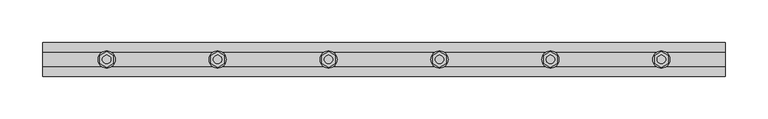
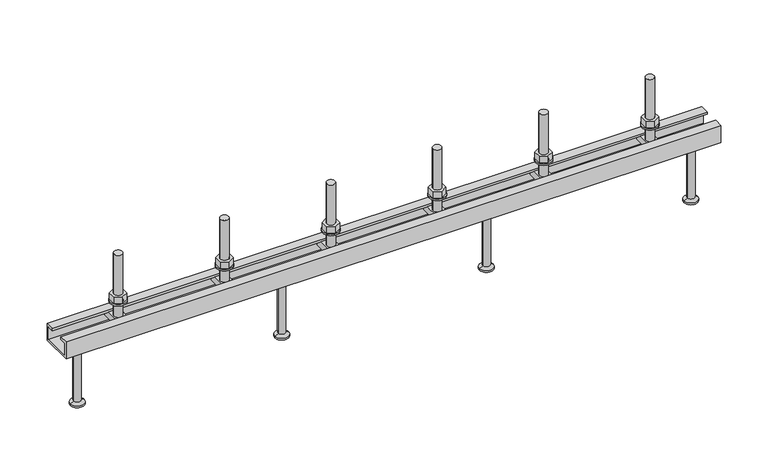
"""IFC4 building model written with IfcOpenShell, lengths in millimetres: fastener geometry, JTA-W JORDAHL® AnchorChannels : JTA-W L=800 mm."""

from ifc_helpers import new_model, si_unit, point, frame, frame_2d, origin, place, context, project, spatial, polyline, circle_curve, trimmed, segment, composite_curve, outline, extrude, source, transform, mapped, element, save
from ifc_brep_helpers import plane_surface, cylinder_surface, revolved_surface, advanced_brep


def fastener_78868887(model_context):
    return source(origin(), model_context, "Body", "SolidModel", [
        extrude(outline(polyline([(595.0, 9.2376043), (603.0, 4.6188022), (603.0, -4.6188022), (595.0, -9.2376043), (587.0, -4.6188022), (587.0, 4.6188022), (595.0, 9.2376043)]), holes=[composite_curve([segment(trimmed(circle_curve(frame_2d((595.0, 0.0)), 5.0), [point((590.0, 0.0))], [point((600.0, 0.0))], True, "CARTESIAN"), True, "CONTINUOUS"), segment(trimmed(circle_curve(frame_2d((595.0, 0.0)), 5.0), [point((600.0, 0.0))], [point((590.0, 0.0))], True, "CARTESIAN"), True, "CONTINUOUS")], self_intersect=False)]), frame((0.0, 0.0, 17.0), z_axis=(0.0, 0.0, 1.0), x_axis=(1.0, 0.0, 0.0)), (0.0, 0.0, 1.0), 8.4),
        extrude(outline(composite_curve([segment(trimmed(circle_curve(frame_2d((595.0, 0.0)), 10.0), [point((585.0, 0.0))], [point((605.0, 0.0))], False, "CARTESIAN"), True, "CONTINUOUS"), segment(trimmed(circle_curve(frame_2d((595.0, 0.0)), 10.0), [point((605.0, 0.0))], [point((585.0, 0.0))], False, "CARTESIAN"), True, "CONTINUOUS")], self_intersect=False), holes=[composite_curve([segment(trimmed(circle_curve(frame_2d((595.0, 0.0)), 5.25), [point((589.75, 0.0))], [point((600.25, 0.0))], True, "CARTESIAN"), True, "CONTINUOUS"), segment(trimmed(circle_curve(frame_2d((595.0, 0.0)), 5.25), [point((600.25, 0.0))], [point((589.75, 0.0))], True, "CARTESIAN"), True, "CONTINUOUS")], self_intersect=False)]), frame((0.0, 0.0, 15.0), z_axis=(0.0, 0.0, 1.0), x_axis=(1.0, 0.0, 0.0)), (0.0, 0.0, 1.0), 2.0),
        extrude(outline(polyline([(465.0, 9.2376043), (473.0, 4.6188022), (473.0, -4.6188022), (465.0, -9.2376043), (457.0, -4.6188022), (457.0, 4.6188022), (465.0, 9.2376043)]), holes=[composite_curve([segment(trimmed(circle_curve(frame_2d((465.0, 0.0)), 5.0), [point((460.0, 0.0))], [point((470.0, 0.0))], True, "CARTESIAN"), True, "CONTINUOUS"), segment(trimmed(circle_curve(frame_2d((465.0, 0.0)), 5.0), [point((470.0, 0.0))], [point((460.0, 0.0))], True, "CARTESIAN"), True, "CONTINUOUS")], self_intersect=False)]), frame((0.0, 0.0, 17.0), z_axis=(0.0, 0.0, 1.0), x_axis=(1.0, 0.0, 0.0)), (0.0, 0.0, 1.0), 8.4),
        extrude(outline(composite_curve([segment(trimmed(circle_curve(frame_2d((465.0, 0.0)), 10.0), [point((455.0, 0.0))], [point((475.0, 0.0))], False, "CARTESIAN"), True, "CONTINUOUS"), segment(trimmed(circle_curve(frame_2d((465.0, 0.0)), 10.0), [point((475.0, 0.0))], [point((455.0, 0.0))], False, "CARTESIAN"), True, "CONTINUOUS")], self_intersect=False), holes=[composite_curve([segment(trimmed(circle_curve(frame_2d((465.0, 0.0)), 5.25), [point((459.75, 0.0))], [point((470.25, 0.0))], True, "CARTESIAN"), True, "CONTINUOUS"), segment(trimmed(circle_curve(frame_2d((465.0, 0.0)), 5.25), [point((470.25, 0.0))], [point((459.75, 0.0))], True, "CARTESIAN"), True, "CONTINUOUS")], self_intersect=False)]), frame((0.0, 0.0, 15.0), z_axis=(0.0, 0.0, 1.0), x_axis=(1.0, 0.0, 0.0)), (0.0, 0.0, 1.0), 2.0),
        extrude(outline(polyline([(335.0, 9.2376043), (343.0, 4.6188022), (343.0, -4.6188022), (335.0, -9.2376043), (327.0, -4.6188022), (327.0, 4.6188022), (335.0, 9.2376043)]), holes=[composite_curve([segment(trimmed(circle_curve(frame_2d((335.0, 0.0)), 5.0), [point((330.0, 0.0))], [point((340.0, 0.0))], True, "CARTESIAN"), True, "CONTINUOUS"), segment(trimmed(circle_curve(frame_2d((335.0, 0.0)), 5.0), [point((340.0, 0.0))], [point((330.0, 0.0))], True, "CARTESIAN"), True, "CONTINUOUS")], self_intersect=False)]), frame((0.0, 0.0, 17.0), z_axis=(0.0, 0.0, 1.0), x_axis=(1.0, 0.0, 0.0)), (0.0, 0.0, 1.0), 8.4),
        extrude(outline(composite_curve([segment(trimmed(circle_curve(frame_2d((335.0, 0.0)), 10.0), [point((325.0, 0.0))], [point((345.0, 0.0))], False, "CARTESIAN"), True, "CONTINUOUS"), segment(trimmed(circle_curve(frame_2d((335.0, 0.0)), 10.0), [point((345.0, 0.0))], [point((325.0, 0.0))], False, "CARTESIAN"), True, "CONTINUOUS")], self_intersect=False), holes=[composite_curve([segment(trimmed(circle_curve(frame_2d((335.0, 0.0)), 5.25), [point((329.75, 0.0))], [point((340.25, 0.0))], True, "CARTESIAN"), True, "CONTINUOUS"), segment(trimmed(circle_curve(frame_2d((335.0, 0.0)), 5.25), [point((340.25, 0.0))], [point((329.75, 0.0))], True, "CARTESIAN"), True, "CONTINUOUS")], self_intersect=False)]), frame((0.0, 0.0, 15.0), z_axis=(0.0, 0.0, 1.0), x_axis=(1.0, 0.0, 0.0)), (0.0, 0.0, 1.0), 2.0),
        extrude(outline(polyline([(205.0, 9.2376043), (213.0, 4.6188022), (213.0, -4.6188022), (205.0, -9.2376043), (197.0, -4.6188022), (197.0, 4.6188022), (205.0, 9.2376043)]), holes=[composite_curve([segment(trimmed(circle_curve(frame_2d((205.0, 0.0)), 5.0), [point((200.0, 0.0))], [point((210.0, 0.0))], True, "CARTESIAN"), True, "CONTINUOUS"), segment(trimmed(circle_curve(frame_2d((205.0, 0.0)), 5.0), [point((210.0, 0.0))], [point((200.0, 0.0))], True, "CARTESIAN"), True, "CONTINUOUS")], self_intersect=False)]), frame((0.0, 0.0, 17.0), z_axis=(0.0, 0.0, 1.0), x_axis=(1.0, 0.0, 0.0)), (0.0, 0.0, 1.0), 8.4),
        extrude(outline(composite_curve([segment(trimmed(circle_curve(frame_2d((205.0, 0.0)), 10.0), [point((195.0, 0.0))], [point((215.0, 0.0))], False, "CARTESIAN"), True, "CONTINUOUS"), segment(trimmed(circle_curve(frame_2d((205.0, 0.0)), 10.0), [point((215.0, 0.0))], [point((195.0, 0.0))], False, "CARTESIAN"), True, "CONTINUOUS")], self_intersect=False), holes=[composite_curve([segment(trimmed(circle_curve(frame_2d((205.0, 0.0)), 5.25), [point((199.75, 0.0))], [point((210.25, 0.0))], True, "CARTESIAN"), True, "CONTINUOUS"), segment(trimmed(circle_curve(frame_2d((205.0, 0.0)), 5.25), [point((210.25, 0.0))], [point((199.75, 0.0))], True, "CARTESIAN"), True, "CONTINUOUS")], self_intersect=False)]), frame((0.0, 0.0, 15.0), z_axis=(0.0, 0.0, 1.0), x_axis=(1.0, 0.0, 0.0)), (0.0, 0.0, 1.0), 2.0),
        advanced_brep(
        [(602.0, 16.25, -3.0), (602.0, -16.25, -3.0), (602.0, -16.25, -11.0), (602.0, 16.25, -11.0), (588.0, 16.25, -3.0), (588.0, 16.25, -11.0), (588.0, -16.25, -11.0), (588.0, -16.25, -3.0), (600.0, 0.0, -3.0), (590.0, 0.0, -3.0), (590.0, 0.0, 77.0), (600.0, 0.0, 77.0)],
        [
            (0, 1),
            (1, 2),
            (2, 3),
            (3, 0),
            (4, 5),
            (5, 6),
            (6, 7),
            (7, 4),
            (0, 4),
            (7, 1),
            (8, 9, circle_curve(frame((595.0, 0.0, -3.0), z_axis=(0.0, 0.0, -1.0), x_axis=(1.0, 0.0, 0.0)), 5.0)),
            (9, 8, circle_curve(frame((595.0, 0.0, -3.0), z_axis=(0.0, 0.0, -1.0), x_axis=(1.0, 0.0, 0.0)), 5.0)),
            (6, 2),
            (5, 3),
            (10, 11, circle_curve(frame((595.0, 0.0, 77.0), z_axis=(0.0, 0.0, 1.0), x_axis=(1.0, 0.0, 0.0)), 5.0)),
            (11, 10, circle_curve(frame((595.0, 0.0, 77.0), z_axis=(0.0, 0.0, 1.0), x_axis=(1.0, 0.0, 0.0)), 5.0)),
            (10, 9),
            (8, 11),
        ],
        [
            plane_surface(frame((602.0, -16.25, -3.0), z_axis=(1.0, 0.0, 0.0), x_axis=(0.0, -1.0, 0.0))),
            plane_surface(frame((588.0, -16.25, -3.0), z_axis=(-1.0, 0.0, 0.0), x_axis=(0.0, 1.0, 0.0))),
            plane_surface(frame((602.0, 16.25, -3.0), z_axis=(0.0, 0.0, 1.0), x_axis=(-1.0, 0.0, 0.0))),
            plane_surface(frame((602.0, -16.25, -3.0), z_axis=(0.0, -1.0, 0.0), x_axis=(-1.0, 0.0, 0.0))),
            plane_surface(frame((602.0, -16.25, -11.0), z_axis=(0.0, 0.0, -1.0), x_axis=(-1.0, 0.0, 0.0))),
            plane_surface(frame((602.0, 16.25, -11.0), z_axis=(0.0, 1.0, 0.0), x_axis=(-1.0, 0.0, 0.0))),
            plane_surface(frame((600.0, 0.0, 77.0), z_axis=(0.0, 0.0, 1.0), x_axis=(0.0, 1.0, 0.0))),
            cylinder_surface(frame((595.0, 0.0, -3.0), z_axis=(0.0, 0.0, 1.0), x_axis=(1.0, 0.0, 0.0)), 5.0),
        ],
        [
            (0, [[1, 2, 3, 4]]),
            (1, [[5, 6, 7, 8]]),
            (2, [[-1, 9, -8, 10], [11, 12]]),
            (3, [[-2, -10, -7, 13]]),
            (4, [[-3, -13, -6, 14]]),
            (5, [[-4, -14, -5, -9]]),
            (6, [[15, 16]]),
            (7, [[-15, 17, -11, 18]]),
            (7, [[-16, -18, -12, -17]]),
        ],
    ),
        advanced_brep(
        [(472.0, 16.25, -3.0), (472.0, -16.25, -3.0), (472.0, -16.25, -11.0), (472.0, 16.25, -11.0), (458.0, 16.25, -3.0), (458.0, 16.25, -11.0), (458.0, -16.25, -11.0), (458.0, -16.25, -3.0), (470.0, 0.0, -3.0), (460.0, 0.0, -3.0), (460.0, 0.0, 77.0), (470.0, 0.0, 77.0)],
        [
            (0, 1),
            (1, 2),
            (2, 3),
            (3, 0),
            (4, 5),
            (5, 6),
            (6, 7),
            (7, 4),
            (0, 4),
            (7, 1),
            (8, 9, circle_curve(frame((465.0, 0.0, -3.0), z_axis=(0.0, 0.0, -1.0), x_axis=(1.0, 0.0, 0.0)), 5.0)),
            (9, 8, circle_curve(frame((465.0, 0.0, -3.0), z_axis=(0.0, 0.0, -1.0), x_axis=(1.0, 0.0, 0.0)), 5.0)),
            (6, 2),
            (5, 3),
            (10, 11, circle_curve(frame((465.0, 0.0, 77.0), z_axis=(0.0, 0.0, 1.0), x_axis=(1.0, 0.0, 0.0)), 5.0)),
            (11, 10, circle_curve(frame((465.0, 0.0, 77.0), z_axis=(0.0, 0.0, 1.0), x_axis=(1.0, 0.0, 0.0)), 5.0)),
            (10, 9),
            (8, 11),
        ],
        [
            plane_surface(frame((472.0, -16.25, -3.0), z_axis=(1.0, 0.0, 0.0), x_axis=(0.0, -1.0, 0.0))),
            plane_surface(frame((458.0, -16.25, -3.0), z_axis=(-1.0, 0.0, 0.0), x_axis=(0.0, 1.0, 0.0))),
            plane_surface(frame((472.0, 16.25, -3.0), z_axis=(0.0, 0.0, 1.0), x_axis=(-1.0, 0.0, 0.0))),
            plane_surface(frame((472.0, -16.25, -3.0), z_axis=(0.0, -1.0, 0.0), x_axis=(-1.0, 0.0, 0.0))),
            plane_surface(frame((472.0, -16.25, -11.0), z_axis=(0.0, 0.0, -1.0), x_axis=(-1.0, 0.0, 0.0))),
            plane_surface(frame((472.0, 16.25, -11.0), z_axis=(0.0, 1.0, 0.0), x_axis=(-1.0, 0.0, 0.0))),
            plane_surface(frame((470.0, 0.0, 77.0), z_axis=(0.0, 0.0, 1.0), x_axis=(0.0, 1.0, 0.0))),
            cylinder_surface(frame((465.0, 0.0, -3.0), z_axis=(0.0, 0.0, 1.0), x_axis=(1.0, 0.0, 0.0)), 5.0),
        ],
        [
            (0, [[1, 2, 3, 4]]),
            (1, [[5, 6, 7, 8]]),
            (2, [[-1, 9, -8, 10], [11, 12]]),
            (3, [[-2, -10, -7, 13]]),
            (4, [[-3, -13, -6, 14]]),
            (5, [[-4, -14, -5, -9]]),
            (6, [[15, 16]]),
            (7, [[-15, 17, -11, 18]]),
            (7, [[-16, -18, -12, -17]]),
        ],
    ),
        advanced_brep(
        [(342.0, 16.25, -3.0), (342.0, -16.25, -3.0), (342.0, -16.25, -11.0), (342.0, 16.25, -11.0), (328.0, 16.25, -3.0), (328.0, 16.25, -11.0), (328.0, -16.25, -11.0), (328.0, -16.25, -3.0), (340.0, 0.0, -3.0), (330.0, 0.0, -3.0), (330.0, 0.0, 77.0), (340.0, 0.0, 77.0)],
        [
            (0, 1),
            (1, 2),
            (2, 3),
            (3, 0),
            (4, 5),
            (5, 6),
            (6, 7),
            (7, 4),
            (0, 4),
            (7, 1),
            (8, 9, circle_curve(frame((335.0, 0.0, -3.0), z_axis=(0.0, 0.0, -1.0), x_axis=(1.0, 0.0, 0.0)), 5.0)),
            (9, 8, circle_curve(frame((335.0, 0.0, -3.0), z_axis=(0.0, 0.0, -1.0), x_axis=(1.0, 0.0, 0.0)), 5.0)),
            (6, 2),
            (5, 3),
            (10, 11, circle_curve(frame((335.0, 0.0, 77.0), z_axis=(0.0, 0.0, 1.0), x_axis=(1.0, 0.0, 0.0)), 5.0)),
            (11, 10, circle_curve(frame((335.0, 0.0, 77.0), z_axis=(0.0, 0.0, 1.0), x_axis=(1.0, 0.0, 0.0)), 5.0)),
            (10, 9),
            (8, 11),
        ],
        [
            plane_surface(frame((342.0, -16.25, -3.0), z_axis=(1.0, 0.0, 0.0), x_axis=(0.0, -1.0, 0.0))),
            plane_surface(frame((328.0, -16.25, -3.0), z_axis=(-1.0, 0.0, 0.0), x_axis=(0.0, 1.0, 0.0))),
            plane_surface(frame((342.0, 16.25, -3.0), z_axis=(0.0, 0.0, 1.0), x_axis=(-1.0, 0.0, 0.0))),
            plane_surface(frame((342.0, -16.25, -3.0), z_axis=(0.0, -1.0, 0.0), x_axis=(-1.0, 0.0, 0.0))),
            plane_surface(frame((342.0, -16.25, -11.0), z_axis=(0.0, 0.0, -1.0), x_axis=(-1.0, 0.0, 0.0))),
            plane_surface(frame((342.0, 16.25, -11.0), z_axis=(0.0, 1.0, 0.0), x_axis=(-1.0, 0.0, 0.0))),
            plane_surface(frame((340.0, 0.0, 77.0), z_axis=(0.0, 0.0, 1.0), x_axis=(0.0, 1.0, 0.0))),
            cylinder_surface(frame((335.0, 0.0, -3.0), z_axis=(0.0, 0.0, 1.0), x_axis=(1.0, 0.0, 0.0)), 5.0),
        ],
        [
            (0, [[1, 2, 3, 4]]),
            (1, [[5, 6, 7, 8]]),
            (2, [[-1, 9, -8, 10], [11, 12]]),
            (3, [[-2, -10, -7, 13]]),
            (4, [[-3, -13, -6, 14]]),
            (5, [[-4, -14, -5, -9]]),
            (6, [[15, 16]]),
            (7, [[-15, 17, -11, 18]]),
            (7, [[-16, -18, -12, -17]]),
        ],
    ),
        advanced_brep(
        [(212.0, 16.25, -3.0), (212.0, -16.25, -3.0), (212.0, -16.25, -11.0), (212.0, 16.25, -11.0), (198.0, 16.25, -3.0), (198.0, 16.25, -11.0), (198.0, -16.25, -11.0), (198.0, -16.25, -3.0), (210.0, 0.0, -3.0), (200.0, 0.0, -3.0), (200.0, 0.0, 77.0), (210.0, 0.0, 77.0)],
        [
            (0, 1),
            (1, 2),
            (2, 3),
            (3, 0),
            (4, 5),
            (5, 6),
            (6, 7),
            (7, 4),
            (0, 4),
            (7, 1),
            (8, 9, circle_curve(frame((205.0, 0.0, -3.0), z_axis=(0.0, 0.0, -1.0), x_axis=(1.0, 0.0, 0.0)), 5.0)),
            (9, 8, circle_curve(frame((205.0, 0.0, -3.0), z_axis=(0.0, 0.0, -1.0), x_axis=(1.0, 0.0, 0.0)), 5.0)),
            (6, 2),
            (5, 3),
            (10, 11, circle_curve(frame((205.0, 0.0, 77.0), z_axis=(0.0, 0.0, 1.0), x_axis=(1.0, 0.0, 0.0)), 5.0)),
            (11, 10, circle_curve(frame((205.0, 0.0, 77.0), z_axis=(0.0, 0.0, 1.0), x_axis=(1.0, 0.0, 0.0)), 5.0)),
            (10, 9),
            (8, 11),
        ],
        [
            plane_surface(frame((212.0, -16.25, -3.0), z_axis=(1.0, 0.0, 0.0), x_axis=(0.0, -1.0, 0.0))),
            plane_surface(frame((198.0, -16.25, -3.0), z_axis=(-1.0, 0.0, 0.0), x_axis=(0.0, 1.0, 0.0))),
            plane_surface(frame((212.0, 16.25, -3.0), z_axis=(0.0, 0.0, 1.0), x_axis=(-1.0, 0.0, 0.0))),
            plane_surface(frame((212.0, -16.25, -3.0), z_axis=(0.0, -1.0, 0.0), x_axis=(-1.0, 0.0, 0.0))),
            plane_surface(frame((212.0, -16.25, -11.0), z_axis=(0.0, 0.0, -1.0), x_axis=(-1.0, 0.0, 0.0))),
            plane_surface(frame((212.0, 16.25, -11.0), z_axis=(0.0, 1.0, 0.0), x_axis=(-1.0, 0.0, 0.0))),
            plane_surface(frame((210.0, 0.0, 77.0), z_axis=(0.0, 0.0, 1.0), x_axis=(0.0, 1.0, 0.0))),
            cylinder_surface(frame((205.0, 0.0, -3.0), z_axis=(0.0, 0.0, 1.0), x_axis=(1.0, 0.0, 0.0)), 5.0),
        ],
        [
            (0, [[1, 2, 3, 4]]),
            (1, [[5, 6, 7, 8]]),
            (2, [[-1, 9, -8, 10], [11, 12]]),
            (3, [[-2, -10, -7, 13]]),
            (4, [[-3, -13, -6, 14]]),
            (5, [[-4, -14, -5, -9]]),
            (6, [[15, 16]]),
            (7, [[-15, 17, -11, 18]]),
            (7, [[-16, -18, -12, -17]]),
        ],
    ),
        advanced_brep(
        [(525.0, 0.0, -22.0), (538.5, 0.0, -22.0), (511.5, 0.0, -22.0), (516.5, 0.0, -100.0), (533.5, 0.0, -100.0), (525.0, 0.0, -100.0), (516.5, 0.0, -98.0), (533.5, 0.0, -98.0), (520.5, 0.0, -95.6905989), (529.5, 0.0, -95.6905989), (520.5, 0.0, -24.5), (529.5, 0.0, -24.5)],
        [
            (0, 1),
            (1, 2, circle_curve(frame((525.0, 0.0, -22.0), z_axis=(0.0, 0.0, 1.0), x_axis=(1.0, 0.0, 0.0)), 13.5)),
            (2, 0),
            (2, 1, circle_curve(frame((525.0, 0.0, -22.0), z_axis=(0.0, 0.0, 1.0), x_axis=(1.0, 0.0, 0.0)), 13.5)),
            (3, 4, circle_curve(frame((525.0, 0.0, -100.0), z_axis=(0.0, 0.0, -1.0), x_axis=(1.0, 0.0, 0.0)), 8.5)),
            (4, 5),
            (5, 3),
            (4, 3, circle_curve(frame((525.0, 0.0, -100.0), z_axis=(0.0, 0.0, -1.0), x_axis=(1.0, 0.0, 0.0)), 8.5)),
            (6, 7, circle_curve(frame((525.0, 0.0, -98.0), z_axis=(0.0, 0.0, -1.0), x_axis=(1.0, 0.0, 0.0)), 8.5)),
            (7, 4),
            (3, 6),
            (7, 6, circle_curve(frame((525.0, 0.0, -98.0), z_axis=(0.0, 0.0, -1.0), x_axis=(1.0, 0.0, 0.0)), 8.5)),
            (8, 9, circle_curve(frame((525.0, 0.0, -95.6905989), z_axis=(0.0, 0.0, -1.0), x_axis=(1.0, 0.0, 0.0)), 4.5)),
            (9, 7),
            (6, 8),
            (9, 8, circle_curve(frame((525.0, 0.0, -95.6905989), z_axis=(0.0, 0.0, -1.0), x_axis=(1.0, 0.0, 0.0)), 4.5)),
            (10, 11, circle_curve(frame((525.0, 0.0, -24.5), z_axis=(0.0, 0.0, -1.0), x_axis=(1.0, 0.0, 0.0)), 4.5)),
            (11, 9),
            (8, 10),
            (11, 10, circle_curve(frame((525.0, 0.0, -24.5), z_axis=(0.0, 0.0, -1.0), x_axis=(1.0, 0.0, 0.0)), 4.5)),
            (1, 11),
            (10, 2),
        ],
        [
            plane_surface(frame((525.0, 0.0, -22.0), z_axis=(0.0, 0.0, 1.0), x_axis=(1.0, 0.0, 0.0))),
            plane_surface(frame((525.0, 0.0, -100.0), z_axis=(0.0, 0.0, -1.0), x_axis=(1.0, 0.0, 0.0))),
            cylinder_surface(frame((525.0, 0.0, 2292.3150031), z_axis=(0.0, 0.0, 1.0), x_axis=(1.0, 0.0, 0.0)), 8.5),
            revolved_surface(polyline([(533.5, 0.0, -98.0), (529.5, 0.0, -95.6905989)]), (525.0, 0.0, 2292.3150031), (0.0, 0.0, 1.0)),
            cylinder_surface(frame((525.0, 0.0, 2292.3150031), z_axis=(0.0, 0.0, 1.0), x_axis=(1.0, 0.0, 0.0)), 4.5),
            revolved_surface(polyline([(529.5, 0.0, -24.5), (538.5, 0.0, -22.0)]), (525.0, 0.0, 2292.3150031), (0.0, 0.0, 1.0)),
        ],
        [
            (0, [[1, 2, 3]]),
            (0, [[-3, 4, -1]]),
            (1, [[5, 6, 7]]),
            (1, [[8, -7, -6]]),
            (2, [[9, 10, -5, 11]]),
            (2, [[12, -11, -8, -10]]),
            (3, [[13, 14, -9, 15]]),
            (3, [[16, -15, -12, -14]]),
            (4, [[17, 18, -13, 19]]),
            (4, [[20, -19, -16, -18]]),
            (5, [[-2, 21, -17, 22]]),
            (5, [[-4, -22, -20, -21]]),
        ],
    ),
        advanced_brep(
        [(275.0, 0.0, -22.0), (288.5, 0.0, -22.0), (261.5, 0.0, -22.0), (266.5, 0.0, -100.0), (283.5, 0.0, -100.0), (275.0, 0.0, -100.0), (266.5, 0.0, -98.0), (283.5, 0.0, -98.0), (270.5, 0.0, -95.6905989), (279.5, 0.0, -95.6905989), (270.5, 0.0, -24.5), (279.5, 0.0, -24.5)],
        [
            (0, 1),
            (1, 2, circle_curve(frame((275.0, 0.0, -22.0), z_axis=(0.0, 0.0, 1.0), x_axis=(1.0, 0.0, 0.0)), 13.5)),
            (2, 0),
            (2, 1, circle_curve(frame((275.0, 0.0, -22.0), z_axis=(0.0, 0.0, 1.0), x_axis=(1.0, 0.0, 0.0)), 13.5)),
            (3, 4, circle_curve(frame((275.0, 0.0, -100.0), z_axis=(0.0, 0.0, -1.0), x_axis=(1.0, 0.0, 0.0)), 8.5)),
            (4, 5),
            (5, 3),
            (4, 3, circle_curve(frame((275.0, 0.0, -100.0), z_axis=(0.0, 0.0, -1.0), x_axis=(1.0, 0.0, 0.0)), 8.5)),
            (6, 7, circle_curve(frame((275.0, 0.0, -98.0), z_axis=(0.0, 0.0, -1.0), x_axis=(1.0, 0.0, 0.0)), 8.5)),
            (7, 4),
            (3, 6),
            (7, 6, circle_curve(frame((275.0, 0.0, -98.0), z_axis=(0.0, 0.0, -1.0), x_axis=(1.0, 0.0, 0.0)), 8.5)),
            (8, 9, circle_curve(frame((275.0, 0.0, -95.6905989), z_axis=(0.0, 0.0, -1.0), x_axis=(1.0, 0.0, 0.0)), 4.5)),
            (9, 7),
            (6, 8),
            (9, 8, circle_curve(frame((275.0, 0.0, -95.6905989), z_axis=(0.0, 0.0, -1.0), x_axis=(1.0, 0.0, 0.0)), 4.5)),
            (10, 11, circle_curve(frame((275.0, 0.0, -24.5), z_axis=(0.0, 0.0, -1.0), x_axis=(1.0, 0.0, 0.0)), 4.5)),
            (11, 9),
            (8, 10),
            (11, 10, circle_curve(frame((275.0, 0.0, -24.5), z_axis=(0.0, 0.0, -1.0), x_axis=(1.0, 0.0, 0.0)), 4.5)),
            (1, 11),
            (10, 2),
        ],
        [
            plane_surface(frame((275.0, 0.0, -22.0), z_axis=(0.0, 0.0, 1.0), x_axis=(1.0, 0.0, 0.0))),
            plane_surface(frame((275.0, 0.0, -100.0), z_axis=(0.0, 0.0, -1.0), x_axis=(1.0, 0.0, 0.0))),
            cylinder_surface(frame((275.0, 0.0, 2292.3150031), z_axis=(0.0, 0.0, 1.0), x_axis=(1.0, 0.0, 0.0)), 8.5),
            revolved_surface(polyline([(283.5, 0.0, -98.0), (279.5, 0.0, -95.6905989)]), (275.0, 0.0, 2292.3150031), (0.0, 0.0, 1.0)),
            cylinder_surface(frame((275.0, 0.0, 2292.3150031), z_axis=(0.0, 0.0, 1.0), x_axis=(1.0, 0.0, 0.0)), 4.5),
            revolved_surface(polyline([(279.5, 0.0, -24.5), (288.5, 0.0, -22.0)]), (275.0, 0.0, 2292.3150031), (0.0, 0.0, 1.0)),
        ],
        [
            (0, [[1, 2, 3]]),
            (0, [[-3, 4, -1]]),
            (1, [[5, 6, 7]]),
            (1, [[8, -7, -6]]),
            (2, [[9, 10, -5, 11]]),
            (2, [[12, -11, -8, -10]]),
            (3, [[13, 14, -9, 15]]),
            (3, [[16, -15, -12, -14]]),
            (4, [[17, 18, -13, 19]]),
            (4, [[20, -19, -16, -18]]),
            (5, [[-2, 21, -17, 22]]),
            (5, [[-4, -22, -20, -21]]),
        ],
    ),
        extrude(outline(polyline([(725.0, 9.2376043), (733.0, 4.6188022), (733.0, -4.6188022), (725.0, -9.2376043), (717.0, -4.6188022), (717.0, 4.6188022), (725.0, 9.2376043)]), holes=[composite_curve([segment(trimmed(circle_curve(frame_2d((725.0, 0.0)), 5.0), [point((720.0, 0.0))], [point((730.0, 0.0))], True, "CARTESIAN"), True, "CONTINUOUS"), segment(trimmed(circle_curve(frame_2d((725.0, 0.0)), 5.0), [point((730.0, 0.0))], [point((720.0, 0.0))], True, "CARTESIAN"), True, "CONTINUOUS")], self_intersect=False)]), frame((0.0, 0.0, 17.0), z_axis=(0.0, 0.0, 1.0), x_axis=(1.0, 0.0, 0.0)), (0.0, 0.0, 1.0), 8.4),
        extrude(outline(composite_curve([segment(trimmed(circle_curve(frame_2d((725.0, 0.0)), 10.0), [point((715.0, 0.0))], [point((735.0, 0.0))], False, "CARTESIAN"), True, "CONTINUOUS"), segment(trimmed(circle_curve(frame_2d((725.0, 0.0)), 10.0), [point((735.0, 0.0))], [point((715.0, 0.0))], False, "CARTESIAN"), True, "CONTINUOUS")], self_intersect=False), holes=[composite_curve([segment(trimmed(circle_curve(frame_2d((725.0, 0.0)), 5.25), [point((719.75, 0.0))], [point((730.25, 0.0))], True, "CARTESIAN"), True, "CONTINUOUS"), segment(trimmed(circle_curve(frame_2d((725.0, 0.0)), 5.25), [point((730.25, 0.0))], [point((719.75, 0.0))], True, "CARTESIAN"), True, "CONTINUOUS")], self_intersect=False)]), frame((0.0, 0.0, 15.0), z_axis=(0.0, 0.0, 1.0), x_axis=(1.0, 0.0, 0.0)), (0.0, 0.0, 1.0), 2.0),
        extrude(outline(polyline([(75.0, 9.2376043), (83.0, 4.6188022), (83.0, -4.6188022), (75.0, -9.2376043), (67.0, -4.6188022), (67.0, 4.6188022), (75.0, 9.2376043)]), holes=[composite_curve([segment(trimmed(circle_curve(frame_2d((75.0, 0.0)), 5.0), [point((70.0, 0.0))], [point((80.0, 0.0))], True, "CARTESIAN"), True, "CONTINUOUS"), segment(trimmed(circle_curve(frame_2d((75.0, 0.0)), 5.0), [point((80.0, 0.0))], [point((70.0, 0.0))], True, "CARTESIAN"), True, "CONTINUOUS")], self_intersect=False)]), frame((0.0, 0.0, 17.0), z_axis=(0.0, 0.0, 1.0), x_axis=(1.0, 0.0, 0.0)), (0.0, 0.0, 1.0), 8.4),
        extrude(outline(composite_curve([segment(trimmed(circle_curve(frame_2d((75.0, 0.0)), 10.0), [point((65.0, 0.0))], [point((85.0, 0.0))], False, "CARTESIAN"), True, "CONTINUOUS"), segment(trimmed(circle_curve(frame_2d((75.0, 0.0)), 10.0), [point((85.0, 0.0))], [point((65.0, 0.0))], False, "CARTESIAN"), True, "CONTINUOUS")], self_intersect=False), holes=[composite_curve([segment(trimmed(circle_curve(frame_2d((75.0, 0.0)), 5.25), [point((69.75, 0.0))], [point((80.25, 0.0))], True, "CARTESIAN"), True, "CONTINUOUS"), segment(trimmed(circle_curve(frame_2d((75.0, 0.0)), 5.25), [point((80.25, 0.0))], [point((69.75, 0.0))], True, "CARTESIAN"), True, "CONTINUOUS")], self_intersect=False)]), frame((0.0, 0.0, 15.0), z_axis=(0.0, 0.0, 1.0), x_axis=(1.0, 0.0, 0.0)), (0.0, 0.0, 1.0), 2.0),
        advanced_brep(
        [(732.0, 16.25, -3.0), (732.0, -16.25, -3.0), (732.0, -16.25, -11.0), (732.0, 16.25, -11.0), (718.0, 16.25, -3.0), (718.0, 16.25, -11.0), (718.0, -16.25, -11.0), (718.0, -16.25, -3.0), (730.0, 0.0, -3.0), (720.0, 0.0, -3.0), (720.0, 0.0, 77.0), (730.0, 0.0, 77.0)],
        [
            (0, 1),
            (1, 2),
            (2, 3),
            (3, 0),
            (4, 5),
            (5, 6),
            (6, 7),
            (7, 4),
            (0, 4),
            (7, 1),
            (8, 9, circle_curve(frame((725.0, 0.0, -3.0), z_axis=(0.0, 0.0, -1.0), x_axis=(1.0, 0.0, 0.0)), 5.0)),
            (9, 8, circle_curve(frame((725.0, 0.0, -3.0), z_axis=(0.0, 0.0, -1.0), x_axis=(1.0, 0.0, 0.0)), 5.0)),
            (6, 2),
            (5, 3),
            (10, 11, circle_curve(frame((725.0, 0.0, 77.0), z_axis=(0.0, 0.0, 1.0), x_axis=(1.0, 0.0, 0.0)), 5.0)),
            (11, 10, circle_curve(frame((725.0, 0.0, 77.0), z_axis=(0.0, 0.0, 1.0), x_axis=(1.0, 0.0, 0.0)), 5.0)),
            (10, 9),
            (8, 11),
        ],
        [
            plane_surface(frame((732.0, -16.25, -3.0), z_axis=(1.0, 0.0, 0.0), x_axis=(0.0, -1.0, 0.0))),
            plane_surface(frame((718.0, -16.25, -3.0), z_axis=(-1.0, 0.0, 0.0), x_axis=(0.0, 1.0, 0.0))),
            plane_surface(frame((732.0, 16.25, -3.0), z_axis=(0.0, 0.0, 1.0), x_axis=(-1.0, 0.0, 0.0))),
            plane_surface(frame((732.0, -16.25, -3.0), z_axis=(0.0, -1.0, 0.0), x_axis=(-1.0, 0.0, 0.0))),
            plane_surface(frame((732.0, -16.25, -11.0), z_axis=(0.0, 0.0, -1.0), x_axis=(-1.0, 0.0, 0.0))),
            plane_surface(frame((732.0, 16.25, -11.0), z_axis=(0.0, 1.0, 0.0), x_axis=(-1.0, 0.0, 0.0))),
            plane_surface(frame((730.0, 0.0, 77.0), z_axis=(0.0, 0.0, 1.0), x_axis=(0.0, 1.0, 0.0))),
            cylinder_surface(frame((725.0, 0.0, -3.0), z_axis=(0.0, 0.0, 1.0), x_axis=(1.0, 0.0, 0.0)), 5.0),
        ],
        [
            (0, [[1, 2, 3, 4]]),
            (1, [[5, 6, 7, 8]]),
            (2, [[-1, 9, -8, 10], [11, 12]]),
            (3, [[-2, -10, -7, 13]]),
            (4, [[-3, -13, -6, 14]]),
            (5, [[-4, -14, -5, -9]]),
            (6, [[15, 16]]),
            (7, [[-15, 17, -11, 18]]),
            (7, [[-16, -18, -12, -17]]),
        ],
    ),
        advanced_brep(
        [(82.0, 16.25, -3.0), (82.0, -16.25, -3.0), (82.0, -16.25, -11.0), (82.0, 16.25, -11.0), (68.0, 16.25, -3.0), (68.0, 16.25, -11.0), (68.0, -16.25, -11.0), (68.0, -16.25, -3.0), (80.0, 0.0, -3.0), (70.0, 0.0, -3.0), (70.0, 0.0, 77.0), (80.0, 0.0, 77.0)],
        [
            (0, 1),
            (1, 2),
            (2, 3),
            (3, 0),
            (4, 5),
            (5, 6),
            (6, 7),
            (7, 4),
            (0, 4),
            (7, 1),
            (8, 9, circle_curve(frame((75.0, 0.0, -3.0), z_axis=(0.0, 0.0, -1.0), x_axis=(1.0, 0.0, 0.0)), 5.0)),
            (9, 8, circle_curve(frame((75.0, 0.0, -3.0), z_axis=(0.0, 0.0, -1.0), x_axis=(1.0, 0.0, 0.0)), 5.0)),
            (6, 2),
            (5, 3),
            (10, 11, circle_curve(frame((75.0, 0.0, 77.0), z_axis=(0.0, 0.0, 1.0), x_axis=(1.0, 0.0, 0.0)), 5.0)),
            (11, 10, circle_curve(frame((75.0, 0.0, 77.0), z_axis=(0.0, 0.0, 1.0), x_axis=(1.0, 0.0, 0.0)), 5.0)),
            (10, 9),
            (8, 11),
        ],
        [
            plane_surface(frame((82.0, -16.25, -3.0), z_axis=(1.0, 0.0, 0.0), x_axis=(0.0, -1.0, 0.0))),
            plane_surface(frame((68.0, -16.25, -3.0), z_axis=(-1.0, 0.0, 0.0), x_axis=(0.0, 1.0, 0.0))),
            plane_surface(frame((82.0, 16.25, -3.0), z_axis=(0.0, 0.0, 1.0), x_axis=(-1.0, 0.0, 0.0))),
            plane_surface(frame((82.0, -16.25, -3.0), z_axis=(0.0, -1.0, 0.0), x_axis=(-1.0, 0.0, 0.0))),
            plane_surface(frame((82.0, -16.25, -11.0), z_axis=(0.0, 0.0, -1.0), x_axis=(-1.0, 0.0, 0.0))),
            plane_surface(frame((82.0, 16.25, -11.0), z_axis=(0.0, 1.0, 0.0), x_axis=(-1.0, 0.0, 0.0))),
            plane_surface(frame((80.0, 0.0, 77.0), z_axis=(0.0, 0.0, 1.0), x_axis=(0.0, 1.0, 0.0))),
            cylinder_surface(frame((75.0, 0.0, -3.0), z_axis=(0.0, 0.0, 1.0), x_axis=(1.0, 0.0, 0.0)), 5.0),
        ],
        [
            (0, [[1, 2, 3, 4]]),
            (1, [[5, 6, 7, 8]]),
            (2, [[-1, 9, -8, 10], [11, 12]]),
            (3, [[-2, -10, -7, 13]]),
            (4, [[-3, -13, -6, 14]]),
            (5, [[-4, -14, -5, -9]]),
            (6, [[15, 16]]),
            (7, [[-15, 17, -11, 18]]),
            (7, [[-16, -18, -12, -17]]),
        ],
    ),
        advanced_brep(
        [(775.0, 0.0, -22.0), (788.5, 0.0, -22.0), (761.5, 0.0, -22.0), (766.5, 0.0, -100.0), (783.5, 0.0, -100.0), (775.0, 0.0, -100.0), (766.5, 0.0, -98.0), (783.5, 0.0, -98.0), (770.5, 0.0, -95.6905989), (779.5, 0.0, -95.6905989), (770.5, 0.0, -24.5), (779.5, 0.0, -24.5)],
        [
            (0, 1),
            (1, 2, circle_curve(frame((775.0, 0.0, -22.0), z_axis=(0.0, 0.0, 1.0), x_axis=(1.0, 0.0, 0.0)), 13.5)),
            (2, 0),
            (2, 1, circle_curve(frame((775.0, 0.0, -22.0), z_axis=(0.0, 0.0, 1.0), x_axis=(1.0, 0.0, 0.0)), 13.5)),
            (3, 4, circle_curve(frame((775.0, 0.0, -100.0), z_axis=(0.0, 0.0, -1.0), x_axis=(1.0, 0.0, 0.0)), 8.5)),
            (4, 5),
            (5, 3),
            (4, 3, circle_curve(frame((775.0, 0.0, -100.0), z_axis=(0.0, 0.0, -1.0), x_axis=(1.0, 0.0, 0.0)), 8.5)),
            (6, 7, circle_curve(frame((775.0, 0.0, -98.0), z_axis=(0.0, 0.0, -1.0), x_axis=(1.0, 0.0, 0.0)), 8.5)),
            (7, 4),
            (3, 6),
            (7, 6, circle_curve(frame((775.0, 0.0, -98.0), z_axis=(0.0, 0.0, -1.0), x_axis=(1.0, 0.0, 0.0)), 8.5)),
            (8, 9, circle_curve(frame((775.0, 0.0, -95.6905989), z_axis=(0.0, 0.0, -1.0), x_axis=(1.0, 0.0, 0.0)), 4.5)),
            (9, 7),
            (6, 8),
            (9, 8, circle_curve(frame((775.0, 0.0, -95.6905989), z_axis=(0.0, 0.0, -1.0), x_axis=(1.0, 0.0, 0.0)), 4.5)),
            (10, 11, circle_curve(frame((775.0, 0.0, -24.5), z_axis=(0.0, 0.0, -1.0), x_axis=(1.0, 0.0, 0.0)), 4.5)),
            (11, 9),
            (8, 10),
            (11, 10, circle_curve(frame((775.0, 0.0, -24.5), z_axis=(0.0, 0.0, -1.0), x_axis=(1.0, 0.0, 0.0)), 4.5)),
            (1, 11),
            (10, 2),
        ],
        [
            plane_surface(frame((775.0, 0.0, -22.0), z_axis=(0.0, 0.0, 1.0), x_axis=(1.0, 0.0, 0.0))),
            plane_surface(frame((775.0, 0.0, -100.0), z_axis=(0.0, 0.0, -1.0), x_axis=(1.0, 0.0, 0.0))),
            cylinder_surface(frame((775.0, 0.0, 2292.3150031), z_axis=(0.0, 0.0, 1.0), x_axis=(1.0, 0.0, 0.0)), 8.5),
            revolved_surface(polyline([(783.5, 0.0, -98.0), (779.5, 0.0, -95.6905989)]), (775.0, 0.0, 2292.3150031), (0.0, 0.0, 1.0)),
            cylinder_surface(frame((775.0, 0.0, 2292.3150031), z_axis=(0.0, 0.0, 1.0), x_axis=(1.0, 0.0, 0.0)), 4.5),
            revolved_surface(polyline([(779.5, 0.0, -24.5), (788.5, 0.0, -22.0)]), (775.0, 0.0, 2292.3150031), (0.0, 0.0, 1.0)),
        ],
        [
            (0, [[1, 2, 3]]),
            (0, [[-3, 4, -1]]),
            (1, [[5, 6, 7]]),
            (1, [[8, -7, -6]]),
            (2, [[9, 10, -5, 11]]),
            (2, [[12, -11, -8, -10]]),
            (3, [[13, 14, -9, 15]]),
            (3, [[16, -15, -12, -14]]),
            (4, [[17, 18, -13, 19]]),
            (4, [[20, -19, -16, -18]]),
            (5, [[-2, 21, -17, 22]]),
            (5, [[-4, -22, -20, -21]]),
        ],
    ),
        advanced_brep(
        [(25.0, 0.0, -22.0), (38.5, 0.0, -22.0), (11.5, 0.0, -22.0), (16.5, 0.0, -100.0), (33.5, 0.0, -100.0), (25.0, 0.0, -100.0), (16.5, 0.0, -98.0), (33.5, 0.0, -98.0), (20.5, 0.0, -95.6905989), (29.5, 0.0, -95.6905989), (20.5, 0.0, -24.5), (29.5, 0.0, -24.5)],
        [
            (0, 1),
            (1, 2, circle_curve(frame((25.0, 0.0, -22.0), z_axis=(0.0, 0.0, 1.0), x_axis=(1.0, 0.0, 0.0)), 13.5)),
            (2, 0),
            (2, 1, circle_curve(frame((25.0, 0.0, -22.0), z_axis=(0.0, 0.0, 1.0), x_axis=(1.0, 0.0, 0.0)), 13.5)),
            (3, 4, circle_curve(frame((25.0, 0.0, -100.0), z_axis=(0.0, 0.0, -1.0), x_axis=(1.0, 0.0, 0.0)), 8.5)),
            (4, 5),
            (5, 3),
            (4, 3, circle_curve(frame((25.0, 0.0, -100.0), z_axis=(0.0, 0.0, -1.0), x_axis=(1.0, 0.0, 0.0)), 8.5)),
            (6, 7, circle_curve(frame((25.0, 0.0, -98.0), z_axis=(0.0, 0.0, -1.0), x_axis=(1.0, 0.0, 0.0)), 8.5)),
            (7, 4),
            (3, 6),
            (7, 6, circle_curve(frame((25.0, 0.0, -98.0), z_axis=(0.0, 0.0, -1.0), x_axis=(1.0, 0.0, 0.0)), 8.5)),
            (8, 9, circle_curve(frame((25.0, 0.0, -95.6905989), z_axis=(0.0, 0.0, -1.0), x_axis=(1.0, 0.0, 0.0)), 4.5)),
            (9, 7),
            (6, 8),
            (9, 8, circle_curve(frame((25.0, 0.0, -95.6905989), z_axis=(0.0, 0.0, -1.0), x_axis=(1.0, 0.0, 0.0)), 4.5)),
            (10, 11, circle_curve(frame((25.0, 0.0, -24.5), z_axis=(0.0, 0.0, -1.0), x_axis=(1.0, 0.0, 0.0)), 4.5)),
            (11, 9),
            (8, 10),
            (11, 10, circle_curve(frame((25.0, 0.0, -24.5), z_axis=(0.0, 0.0, -1.0), x_axis=(1.0, 0.0, 0.0)), 4.5)),
            (1, 11),
            (10, 2),
        ],
        [
            plane_surface(frame((25.0, 0.0, -22.0), z_axis=(0.0, 0.0, 1.0), x_axis=(1.0, 0.0, 0.0))),
            plane_surface(frame((25.0, 0.0, -100.0), z_axis=(0.0, 0.0, -1.0), x_axis=(1.0, 0.0, 0.0))),
            cylinder_surface(frame((25.0, 0.0, 2292.3150031), z_axis=(0.0, 0.0, 1.0), x_axis=(1.0, 0.0, 0.0)), 8.5),
            revolved_surface(polyline([(33.5, 0.0, -98.0), (29.5, 0.0, -95.6905989)]), (25.0, 0.0, 2292.3150031), (0.0, 0.0, 1.0)),
            cylinder_surface(frame((25.0, 0.0, 2292.3150031), z_axis=(0.0, 0.0, 1.0), x_axis=(1.0, 0.0, 0.0)), 4.5),
            revolved_surface(polyline([(29.5, 0.0, -24.5), (38.5, 0.0, -22.0)]), (25.0, 0.0, 2292.3150031), (0.0, 0.0, 1.0)),
        ],
        [
            (0, [[1, 2, 3]]),
            (0, [[-3, 4, -1]]),
            (1, [[5, 6, 7]]),
            (1, [[8, -7, -6]]),
            (2, [[9, 10, -5, 11]]),
            (2, [[12, -11, -8, -10]]),
            (3, [[13, 14, -9, 15]]),
            (3, [[16, -15, -12, -14]]),
            (4, [[17, 18, -13, 19]]),
            (4, [[20, -19, -16, -18]]),
            (5, [[-2, 21, -17, 22]]),
            (5, [[-4, -22, -20, -21]]),
        ],
    ),
        extrude(outline(polyline([(20.0, 0.0), (20.0, -22.0), (-20.0, -22.0), (-20.0, 0.0), (-9.0, 0.0), (-9.0, -3.0), (-17.5, -3.0), (-17.5, -19.5), (17.5, -19.5), (17.5, -3.0), (9.0, -3.0), (9.0, 0.0), (20.0, 0.0)])), frame((0.0, 0.0, 0.0), z_axis=(1.0, 0.0, 0.0), x_axis=(0.0, 1.0, 0.0)), (0.0, 0.0, 1.0), 800.0),
    ])


if __name__ == "__main__":
    model = new_model("IFC4")
    model_context = context("Model", 3, world=origin())
    ifc_project = project(units=[si_unit("LENGTHUNIT", "METRE", prefix="MILLI")], contexts=[model_context])
    site = spatial("IfcSite", under=ifc_project)
    building = spatial("IfcBuilding", under=site)
    placement = place(None, origin())
    fastener_shape = fastener_78868887(model_context)
    element("IfcFastener", 1, ObjectType="JTA-W JORDAHL® AnchorChannels : JTA-W L=800 mm", at=placement, inside=building, context=model_context, shape_type="MappedRepresentation", body=[
        mapped(fastener_shape, transform((0.0, 0.0, 0.0), x_axis=(1.0, 0.0, 0.0), y_axis=(0.0, 1.0, 0.0), z_axis=(0.0, 0.0, 1.0))),
    ])
    save(model, "model.ifc")
